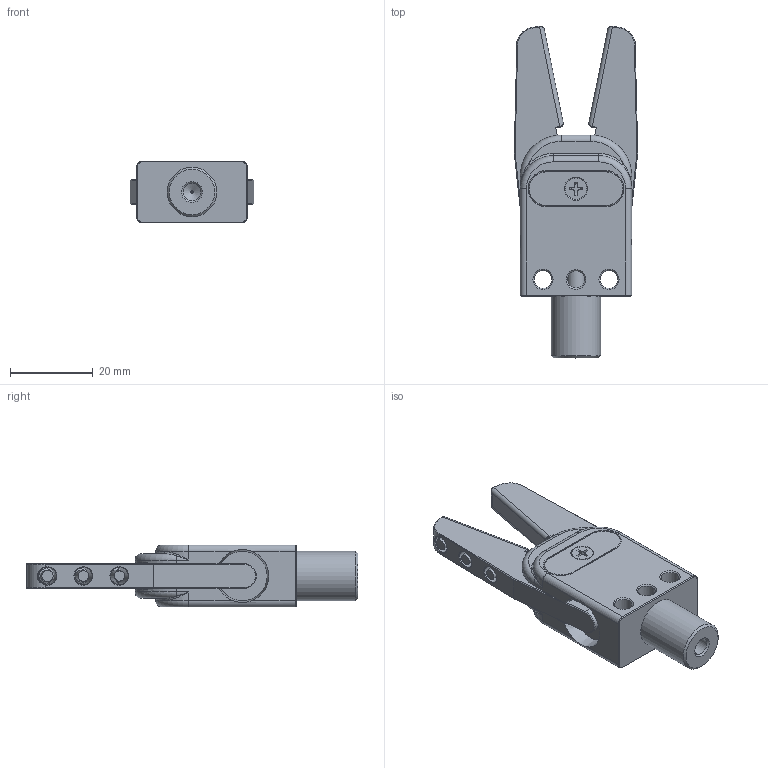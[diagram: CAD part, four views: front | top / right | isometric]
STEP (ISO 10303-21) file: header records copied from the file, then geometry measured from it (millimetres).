
FILE_DESCRIPTION(/* description */ (''),/* implementation_level */ '2;1');
FILE_NAME(/* name */ 'GR12N-12',/* time_stamp */ '2022-07-08T13:34:29+08:00',/* author */ (''),/* organization */ (''),/* preprocessor_version */ 'ST-DEVELOPER v9',/* originating_system */ 'UGS - NX 4.0',/* authorisation */ '');
FILE_SCHEMA (('AUTOMOTIVE_DESIGN { 1 0 10303 214 1 1 1 1 }'));
Length unit declared in the file: millimetre
Products named in the file (1): AdmiCEA6os6i
Bounding box: 29.92 x 80.41 x 15 mm (x, y, z)
Volume: 16924.3 mm3; surface area: 9669 mm2
Topology: 3 solids, 10 shells, 359 faces, 838 edges, 501 vertices
Faces by surface type: plane 152, cylinder 82, cone 71, torus 24, bspline 22, extrusion 8
Full cylindrical faces by diameter (mm): 0.5 x1, 2.2 x2, 2.5 x1, 3 x5, 3.323 x2, 3.5 x1, 4.2 x8, 4.3 x2, 5.2 x1, 6.2 x2, 12 x1
Entity records: 15126 total; most frequent: CARTESIAN_POINT 7522, DIRECTION 1552, ORIENTED_EDGE 1454, EDGE_CURVE 727, AXIS2_PLACEMENT_3D 583, VERTEX_POINT 469, EDGE_LOOP 464, VECTOR 386
